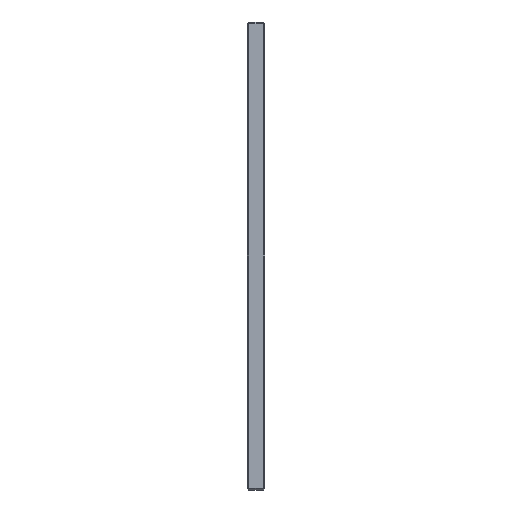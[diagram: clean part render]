
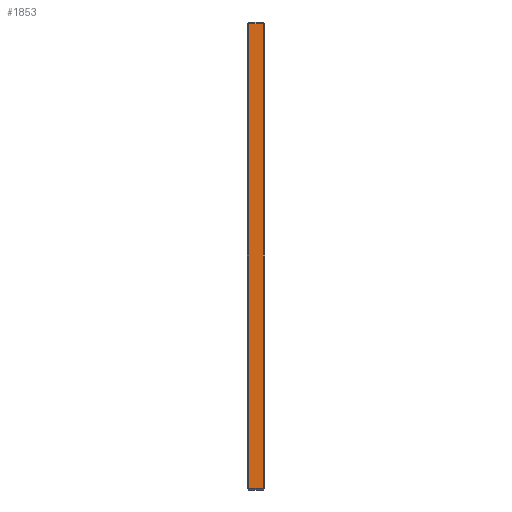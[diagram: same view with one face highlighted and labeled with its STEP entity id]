
A CAD part, left-side view. The second image highlights one B-rep face of the part: STEP entity #1853.
In plain terms, the highlighted planar face has unit normal (-1, 0, 0).
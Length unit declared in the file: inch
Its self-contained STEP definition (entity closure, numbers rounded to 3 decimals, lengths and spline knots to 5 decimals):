
#9 = DIRECTION ( 'NONE',  ( 0., 0., 1. ) ) ;
#55 = EDGE_CURVE ( 'NONE', #1301, #817, #521, .T. ) ;
#77 = CARTESIAN_POINT ( 'NONE',  ( -7.4375, 0.45, -6.575 ) ) ;
#94 = PLANE ( 'NONE',  #1250 ) ;
#95 = EDGE_CURVE ( 'NONE', #711, #1709, #372, .T. ) ;
#248 = EDGE_LOOP ( 'NONE', ( #274, #1645, #1468, #650 ) ) ;
#274 = ORIENTED_EDGE ( 'NONE', *, *, #835, .T. ) ;
#300 = LINE ( 'NONE', #1462, #1122 ) ;
#350 = CARTESIAN_POINT ( 'NONE',  ( -7.4375, 0.05, 6.575 ) ) ;
#372 = LINE ( 'NONE', #640, #1572 ) ;
#516 = DIRECTION ( 'NONE',  ( 0., 1., 0. ) ) ;
#521 = LINE ( 'NONE', #1524, #936 ) ;
#640 = CARTESIAN_POINT ( 'NONE',  ( -7.4375, 0.5, -6.575 ) ) ;
#650 = ORIENTED_EDGE ( 'NONE', *, *, #55, .T. ) ;
#711 = VERTEX_POINT ( 'NONE', #77 ) ;
#806 = DIRECTION ( 'NONE',  ( 0., -1., 0. ) ) ;
#817 = VERTEX_POINT ( 'NONE', #989 ) ;
#818 = CARTESIAN_POINT ( 'NONE',  ( -7.4375, 0.5, -6.625 ) ) ;
#827 = LINE ( 'NONE', #1783, #905 ) ;
#835 = EDGE_CURVE ( 'NONE', #817, #711, #300, .T. ) ;
#905 = VECTOR ( 'NONE', #9, 39.37008 ) ;
#936 = VECTOR ( 'NONE', #516, 39.37008 ) ;
#944 = DIRECTION ( 'NONE',  ( 0., 0., -1. ) ) ;
#986 = EDGE_CURVE ( 'NONE', #1709, #1301, #827, .T. ) ;
#989 = CARTESIAN_POINT ( 'NONE',  ( -7.4375, 0.45, 6.575 ) ) ;
#1019 = DIRECTION ( 'NONE',  ( 0., 0., -1. ) ) ;
#1122 = VECTOR ( 'NONE', #1019, 39.37008 ) ;
#1154 = CARTESIAN_POINT ( 'NONE',  ( -7.4375, 0.05, -6.575 ) ) ;
#1178 = FACE_OUTER_BOUND ( 'NONE', #248, .T. ) ;
#1250 = AXIS2_PLACEMENT_3D ( 'NONE', #818, #1272, #944 ) ;
#1272 = DIRECTION ( 'NONE',  ( 1., 0., 0. ) ) ;
#1301 = VERTEX_POINT ( 'NONE', #350 ) ;
#1462 = CARTESIAN_POINT ( 'NONE',  ( -7.4375, 0.45, -6.625 ) ) ;
#1468 = ORIENTED_EDGE ( 'NONE', *, *, #986, .T. ) ;
#1524 = CARTESIAN_POINT ( 'NONE',  ( -7.4375, 0.5, 6.575 ) ) ;
#1572 = VECTOR ( 'NONE', #806, 39.37008 ) ;
#1645 = ORIENTED_EDGE ( 'NONE', *, *, #95, .T. ) ;
#1709 = VERTEX_POINT ( 'NONE', #1154 ) ;
#1783 = CARTESIAN_POINT ( 'NONE',  ( -7.4375, 0.05, -6.625 ) ) ;
#1853 = ADVANCED_FACE ( 'Placement Plane', ( #1178 ), #94, .F. ) ;
